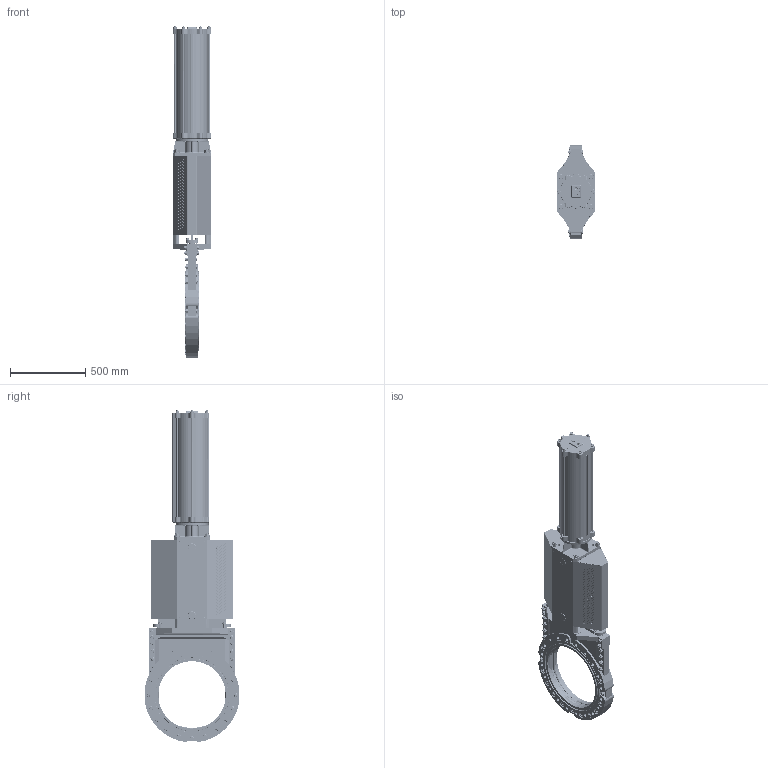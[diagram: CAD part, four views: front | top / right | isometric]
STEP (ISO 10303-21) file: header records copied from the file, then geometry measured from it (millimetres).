
FILE_DESCRIPTION(/* description */ (''),/* implementation_level */ '2;1');
FILE_NAME(/* name */ 'F:\Emir\3D-block special\WB\WB14-WEL-DN450-PN10-FRSC200-550.stp',/* time_stamp */ '2018-06-07T16:15:46+02:00',/* author */ ('emimus'),/* organization */ (''),/* preprocessor_version */ 'ST-DEVELOPER v17',/* originating_system */ 'Autodesk Inventor 2018',/* authorisation */ '');
FILE_SCHEMA (('CONFIG_CONTROL_DESIGN'));
Products named in the file (1): WB14-WEL-DN450-PN10-FRSC200-550
Bounding box: 257.51 x 627.8 x 2211.9 mm (x, y, z)
Volume: 37505824.6 mm3; surface area: 6644688.3 mm2
Topology: 1 solids, 1 shells, 4385 faces, 11338 edges, 7151 vertices
Faces by surface type: plane 1894, cylinder 1232, cone 497, bspline 337, torus 265, sphere 160
Full cylindrical faces by diameter (mm): 3.7 x8, 4 x2, 4.2 x8, 4.3 x2, 4.5 x12, 4.917 x7, 5 x2, 6.647 x4, 7.5 x4, 8.376 x4, 9.5 x2, 10 x9, 10.106 x2, 12 x26, 13 x18, 15 x1, 16 x25, 17 x4, 17.294 x4, 18 x2, 18.631 x2, 20 x8, 20.752 x40, 21 x8, 22.49 x29, 24 x13, 30 x50, 33 x31, 36 x22, 37 x4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
Entity records: 145660 total; most frequent: CARTESIAN_POINT 40813, ORIENTED_EDGE 22342, DIRECTION 21676, EDGE_CURVE 11171, AXIS2_PLACEMENT_3D 8517, VERTEX_POINT 7149, EDGE_LOOP 5148, LINE 4642
